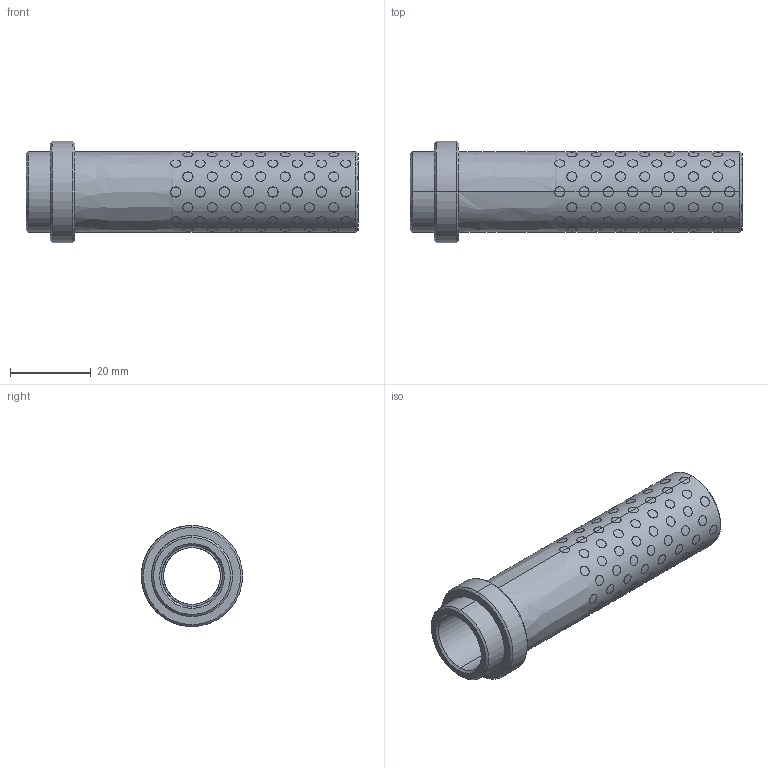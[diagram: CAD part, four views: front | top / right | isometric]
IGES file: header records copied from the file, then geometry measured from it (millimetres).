
Start section: START RECORD GO HERE.
Global section: file name: G31214076.igs; native system: DASSAULT SYSTEMES CATIA V5 R20 - www.3ds.com; preprocessor: CATIA Version 5 Release 20 ; author: r.borello; organization: CFTORINO; date: 20190624.121940; units: millimetre
Bounding box: 82 x 25 x 25 mm (x, y, z)
Surface area: 15178.9 mm2 (no closed solid volume)
Topology: 0 solids, 0 shells, 779 faces, 3372 edges, 3372 vertices
Faces by surface type: revolution 774, plane 5
